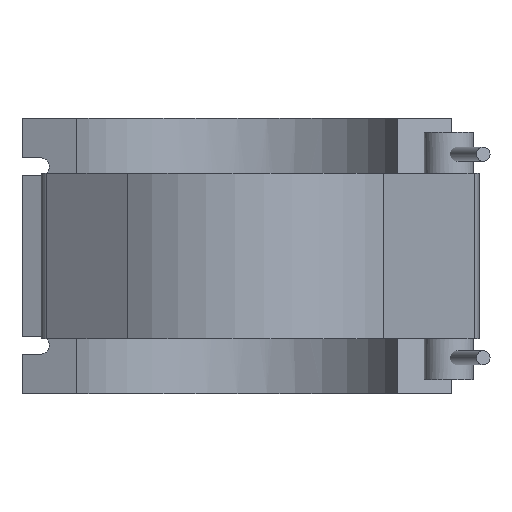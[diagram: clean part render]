
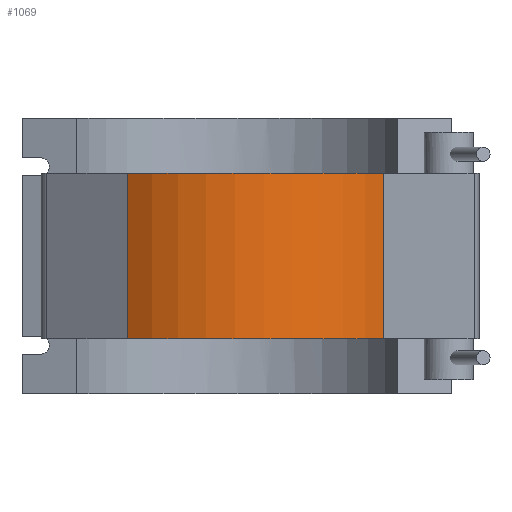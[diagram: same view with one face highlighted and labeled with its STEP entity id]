
A CAD part, front view. The second image highlights one B-rep face of the part: STEP entity #1069.
In plain terms, the highlighted cylindrical face has radius 114.817 mm (diameter 229.635 mm), a partial arc.
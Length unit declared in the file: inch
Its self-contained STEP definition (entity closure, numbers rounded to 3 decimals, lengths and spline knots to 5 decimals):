
#142=FACE_OUTER_BOUND('',#219,.T.);
#219=EDGE_LOOP('',(#940,#941,#942,#943));
#295=LINE('',#2237,#375);
#296=LINE('',#2241,#376);
#375=VECTOR('',#1494,0.3937);
#376=VECTOR('',#1497,0.3937);
#439=CIRCLE('',#1205,4.52037);
#440=CIRCLE('',#1206,4.52037);
#533=VERTEX_POINT('',#2235);
#534=VERTEX_POINT('',#2236);
#535=VERTEX_POINT('',#2238);
#536=VERTEX_POINT('',#2240);
#672=EDGE_CURVE('',#533,#534,#295,.T.);
#673=EDGE_CURVE('',#535,#533,#439,.T.);
#674=EDGE_CURVE('',#536,#535,#296,.T.);
#675=EDGE_CURVE('',#534,#536,#440,.T.);
#940=ORIENTED_EDGE('',*,*,#672,.F.);
#941=ORIENTED_EDGE('',*,*,#673,.F.);
#942=ORIENTED_EDGE('',*,*,#674,.F.);
#943=ORIENTED_EDGE('',*,*,#675,.F.);
#1010=CYLINDRICAL_SURFACE('',#1204,4.52037);
#1069=ADVANCED_FACE('',(#142),#1010,.T.);
#1204=AXIS2_PLACEMENT_3D('',#2234,#1492,#1493);
#1205=AXIS2_PLACEMENT_3D('',#2239,#1495,#1496);
#1206=AXIS2_PLACEMENT_3D('',#2242,#1498,#1499);
#1492=DIRECTION('center_axis',(0.,0.,1.));
#1493=DIRECTION('ref_axis',(-1.,0.,0.));
#1494=DIRECTION('',(0.,0.,-1.));
#1495=DIRECTION('center_axis',(0.,0.,1.));
#1496=DIRECTION('ref_axis',(-1.,0.,0.));
#1497=DIRECTION('',(0.,0.,1.));
#1498=DIRECTION('center_axis',(0.,0.,-1.));
#1499=DIRECTION('ref_axis',(-1.,0.,0.));
#2234=CARTESIAN_POINT('Origin',(0.,0.,0.));
#2235=CARTESIAN_POINT('',(3.69992,-2.597,2.079));
#2236=CARTESIAN_POINT('',(3.69992,-2.597,-2.079));
#2237=CARTESIAN_POINT('',(3.69992,-2.597,0.));
#2238=CARTESIAN_POINT('',(-2.76072,-3.57942,2.079));
#2239=CARTESIAN_POINT('Origin',(0.,0.,2.079));
#2240=CARTESIAN_POINT('',(-2.76072,-3.57942,-2.079));
#2241=CARTESIAN_POINT('',(-2.76072,-3.57942,0.));
#2242=CARTESIAN_POINT('Origin',(0.,0.,-2.079));
